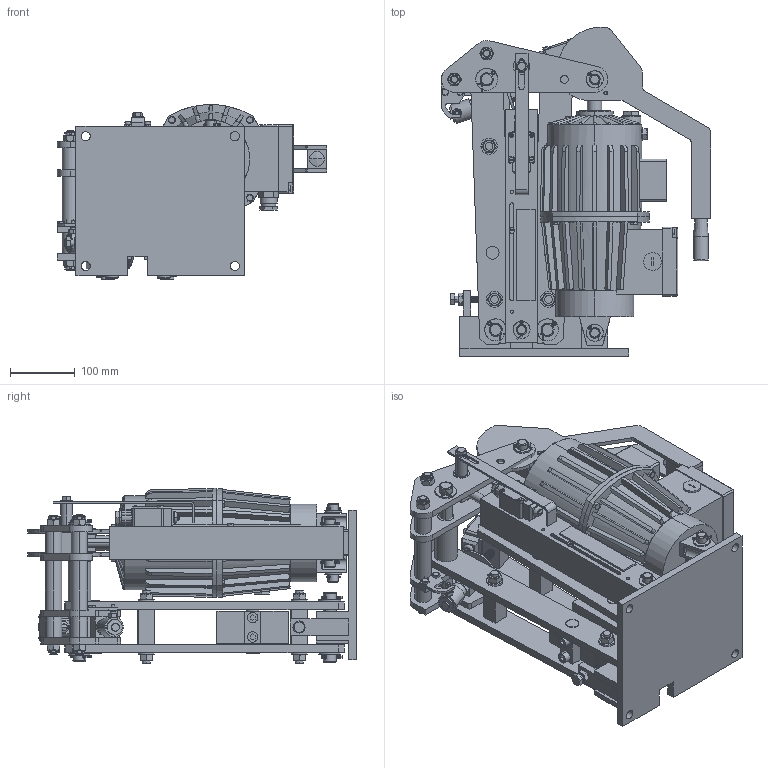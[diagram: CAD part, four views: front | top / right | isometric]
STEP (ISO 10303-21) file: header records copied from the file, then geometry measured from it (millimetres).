
FILE_DESCRIPTION((''),'2;1');
FILE_NAME('DS_160_FEA-452R-20_ASM','2020-04-27T',('BOLS'),(''),'CREO PARAMETRIC BY PTC INC, 2018360','CREO PARAMETRIC BY PTC INC, 2018360','');
FILE_SCHEMA(('CONFIG_CONTROL_DESIGN'));
Products named in the file (50): MSBR-48; MSBR-47; MSBR-46; MSBR-45; MSBR-44; MSBR-43; MSBR-42; MSBR-41; MSBR-40; MSBR-39; MSBR-38; MSBR-37; MSBR-36; MSBR-35; MSBR-34; MSBR-33; MSBR-32; MSBR-31; MSBR-30; MSBR-29; MSBR-28; MSBR-27; MSBR-26; MSBR-25; MSBR-24; MSBR-23; MSBR-22; MSBR-21; MSBR-20; MSBR-19; MSBR-18; MSBR-17; MSBR-16; MSBR-15; MSBR-14; MSBR-13; MSBR-12; MSBR-11; MSBR-10; MSBR-9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
Assembly tree (49 placements, depth 2):
  DS_160_FEA-452R-20_ASM
    MSBR-48
    MSBR-47
    MSBR-46
    MSBR-45
    MSBR-44
    MSBR-43
    MSBR-42
    MSBR-41
    MSBR-40
    MSBR-39
    MSBR-38
    MSBR-37
    MSBR-36
    MSBR-35
    MSBR-34
    MSBR-33
    MSBR-32
    MSBR-31
    MSBR-30
    MSBR-29
    MSBR-28
    MSBR-27
    MSBR-26
    MSBR-25
    MSBR-24
    MSBR-23
    MSBR-22
    MSBR-21
    MSBR-20
    MSBR-19
    MSBR-18
    MSBR-17
    MSBR-16
    MSBR-15
    MSBR-14
    MSBR-13
    MSBR-12
    MSBR-11
    MSBR-10
    MSBR-9
    MSBR-8
    MSBR-7
    MSBR-6
    MSBR-5
    MSBR-4
    MSBR-3
    MSBR-2
    MSBR-1
    _DS_160_FEA-452R-20
Bounding box: 415.18 x 506.99 x 270 mm (x, y, z)
Volume: 2715432.6 mm3; surface area: 1526967.4 mm2
Topology: 48 solids, 111 shells, 3040 faces, 8171 edges, 5116 vertices
Faces by surface type: plane 1320, cylinder 955, cone 575, torus 155, bspline 35
Entity records: 139622 total; most frequent: CARTESIAN_POINT 37478, DIRECTION 15707, ORIENTED_EDGE 15684, PRESENTATION_STYLE_ASSIGNMENT 8274, STYLED_ITEM 8274, CURVE_STYLE 8165, EDGE_CURVE 8165, AXIS2_PLACEMENT_3D 6002
